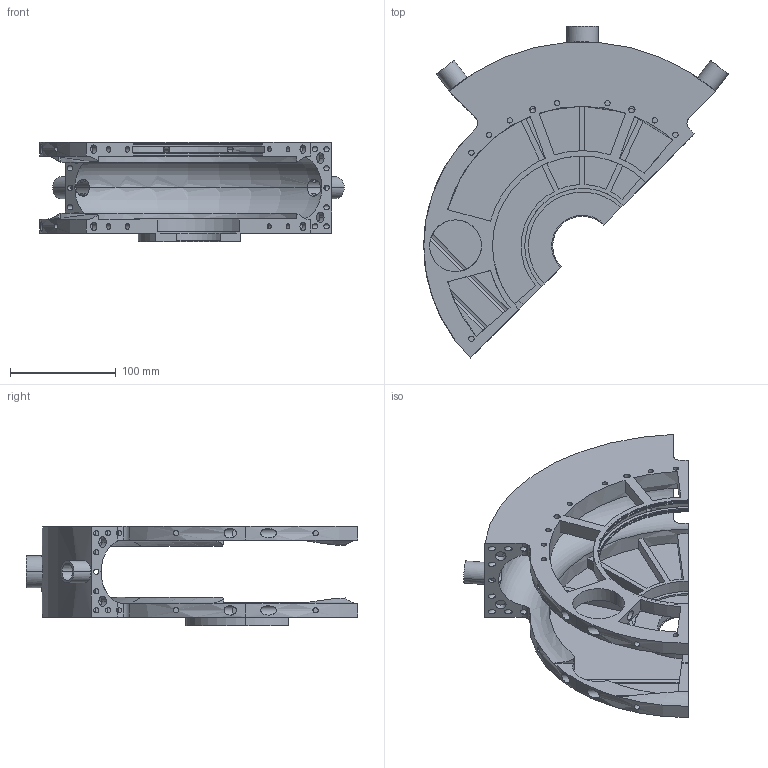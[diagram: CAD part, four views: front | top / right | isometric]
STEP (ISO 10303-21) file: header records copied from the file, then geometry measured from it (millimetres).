
FILE_DESCRIPTION(('STEP AP214'),'1');
FILE_NAME('C:/Users/mashimo/Documents/次世代エンジン/ボア６ｃｍ/TurboCAD/3D/tmp0.STEP','2025-07-11T09:05:53',(' '),(' '),'Spatial InterOp 3D',' ',' ');
FILE_SCHEMA(('automotive_design'));
Length unit declared in the file: millimetre
Products named in the file (1): 1
Bounding box: 288 x 314.07 x 94 mm (x, y, z)
Volume: 701495 mm3; surface area: 330408.7 mm2
Topology: 1 solids, 1 shells, 437 faces, 1305 edges, 876 vertices
Faces by surface type: cylinder 237, plane 180, torus 20
Entity records: 22820 total; most frequent: CARTESIAN_POINT 6986, DIRECTION 2660, ORIENTED_EDGE 2610, EDGE_CURVE 1305, AXIS2_PLACEMENT_3D 1042, VERTEX_POINT 876, LINE 576, VECTOR 576
